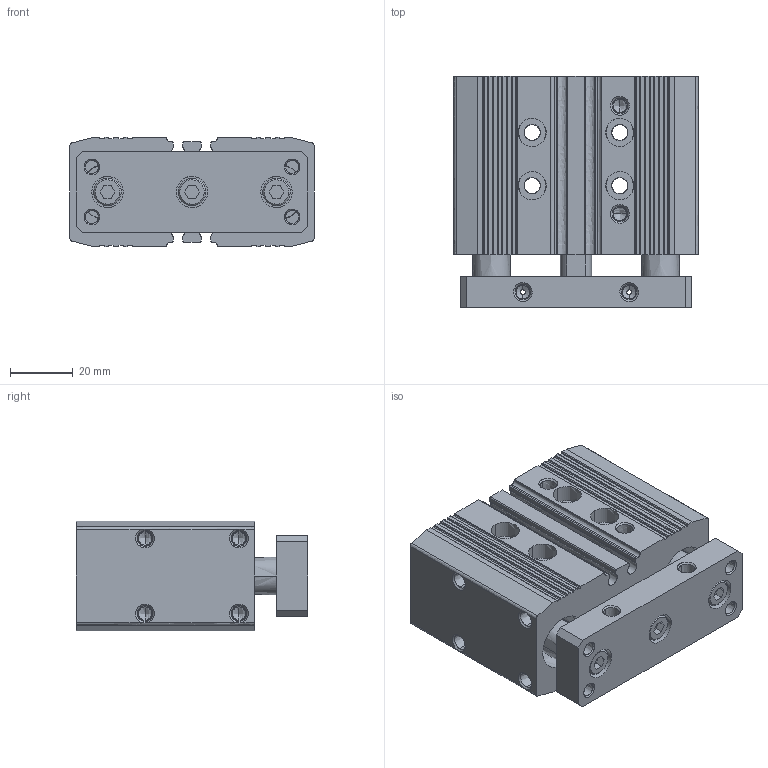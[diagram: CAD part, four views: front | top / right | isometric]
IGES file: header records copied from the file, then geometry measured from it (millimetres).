
Start section:  PTC IGES file: 060496_gcyl-20x20.igs
Global section: file name: 060496_gcyl-20x20.igs; native system: Pro/ENGINEER by Parametric Technology Corporation; preprocessor: 2004090; author: KAIHATSU01; organization: Unknown; date: 061017.092313; units: millimetre
Bounding box: 78 x 74 x 35 mm (x, y, z)
Volume: 147750 mm3; surface area: 42577.2 mm2
Topology: 1 solids, 1 shells, 497 faces, 1270 edges, 776 vertices
Faces by surface type: bspline 497
